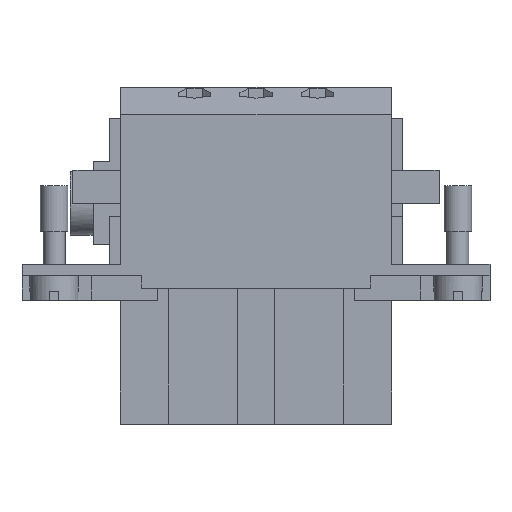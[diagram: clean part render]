
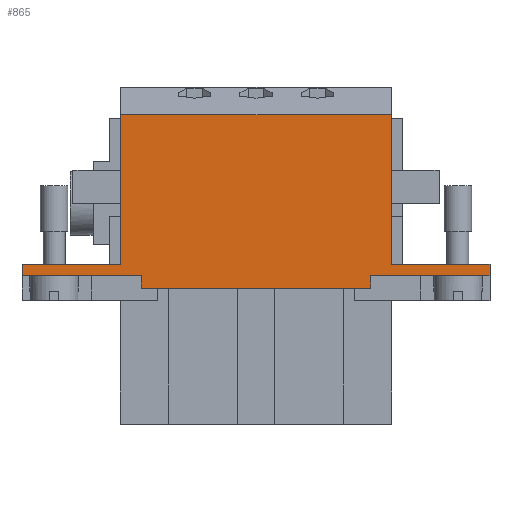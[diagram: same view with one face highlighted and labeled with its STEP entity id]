
A CAD part, top view. The second image highlights one B-rep face of the part: STEP entity #865.
In plain terms, the highlighted planar face has unit normal (0, 0, 1).
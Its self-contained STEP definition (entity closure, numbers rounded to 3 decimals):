
#162 = DIRECTION ( 'NONE',  ( -1., 0., 0. ) ) ;
#275 = FACE_OUTER_BOUND ( 'NONE', #6357, .T. ) ;
#409 = EDGE_CURVE ( 'NONE', #8624, #3747, #432, .T. ) ;
#432 = LINE ( 'NONE', #2597, #7323 ) ;
#462 = VERTEX_POINT ( 'NONE', #8186 ) ;
#865 = ADVANCED_FACE ( 'NONE', ( #275 ), #3614, .F. ) ;
#1020 = VERTEX_POINT ( 'NONE', #1173 ) ;
#1173 = CARTESIAN_POINT ( 'NONE',  ( 14.75, 20.2, 17. ) ) ;
#1204 = ORIENTED_EDGE ( 'NONE', *, *, #7117, .T. ) ;
#1302 = CARTESIAN_POINT ( 'NONE',  ( -14.75, 3.9, 17. ) ) ;
#1489 = CARTESIAN_POINT ( 'NONE',  ( 25.5, 2.7, 17. ) ) ;
#1500 = LINE ( 'NONE', #2618, #6022 ) ;
#1562 = LINE ( 'NONE', #10875, #7203 ) ;
#1787 = CARTESIAN_POINT ( 'NONE',  ( -16.4, -60.742, 17. ) ) ;
#1869 = EDGE_CURVE ( 'NONE', #10156, #4719, #8128, .T. ) ;
#1883 = CARTESIAN_POINT ( 'NONE',  ( -12.5, 1.3, 17. ) ) ;
#2114 = LINE ( 'NONE', #7710, #6637 ) ;
#2119 = CARTESIAN_POINT ( 'NONE',  ( -12.5, -4.885, 17. ) ) ;
#2121 = EDGE_CURVE ( 'NONE', #1020, #10606, #9405, .T. ) ;
#2210 = EDGE_CURVE ( 'NONE', #7944, #10156, #3340, .T. ) ;
#2222 = VECTOR ( 'NONE', #8026, 1000. ) ;
#2337 = VECTOR ( 'NONE', #7668, 1000. ) ;
#2421 = EDGE_CURVE ( 'NONE', #462, #8624, #1500, .T. ) ;
#2597 = CARTESIAN_POINT ( 'NONE',  ( -25.5, 2.7, 17. ) ) ;
#2618 = CARTESIAN_POINT ( 'NONE',  ( -16.4, 2.7, 17. ) ) ;
#2756 = DIRECTION ( 'NONE',  ( 1., 0., 0. ) ) ;
#2787 = CARTESIAN_POINT ( 'NONE',  ( 14.75, 3.9, 17. ) ) ;
#2888 = LINE ( 'NONE', #9360, #2337 ) ;
#2972 = DIRECTION ( 'NONE',  ( 0., 1., 0. ) ) ;
#3058 = CARTESIAN_POINT ( 'NONE',  ( -16.4, 3.9, 17. ) ) ;
#3118 = ORIENTED_EDGE ( 'NONE', *, *, #7149, .F. ) ;
#3340 = LINE ( 'NONE', #5572, #5886 ) ;
#3445 = AXIS2_PLACEMENT_3D ( 'NONE', #1787, #9930, #4552 ) ;
#3512 = DIRECTION ( 'NONE',  ( 0., 1., 0. ) ) ;
#3614 = PLANE ( 'NONE',  #3445 ) ;
#3738 = CARTESIAN_POINT ( 'NONE',  ( 25.5, 3.9, 17. ) ) ;
#3747 = VERTEX_POINT ( 'NONE', #7391 ) ;
#3863 = CARTESIAN_POINT ( 'NONE',  ( 14.75, -30.14, 17. ) ) ;
#3872 = ORIENTED_EDGE ( 'NONE', *, *, #2421, .F. ) ;
#4112 = DIRECTION ( 'NONE',  ( -1., 0., 0. ) ) ;
#4383 = ORIENTED_EDGE ( 'NONE', *, *, #2210, .T. ) ;
#4428 = EDGE_CURVE ( 'NONE', #9416, #10606, #1562, .T. ) ;
#4552 = DIRECTION ( 'NONE',  ( 1., 0., 0. ) ) ;
#4585 = DIRECTION ( 'NONE',  ( 1., 0., 0. ) ) ;
#4719 = VERTEX_POINT ( 'NONE', #10483 ) ;
#4749 = ORIENTED_EDGE ( 'NONE', *, *, #2121, .T. ) ;
#4855 = EDGE_CURVE ( 'NONE', #4719, #7285, #9600, .T. ) ;
#4919 = ORIENTED_EDGE ( 'NONE', *, *, #4855, .T. ) ;
#5009 = LINE ( 'NONE', #3863, #5565 ) ;
#5482 = ORIENTED_EDGE ( 'NONE', *, *, #11303, .T. ) ;
#5565 = VECTOR ( 'NONE', #2972, 1000. ) ;
#5572 = CARTESIAN_POINT ( 'NONE',  ( -16.4, 1.3, 17. ) ) ;
#5738 = LINE ( 'NONE', #3058, #9539 ) ;
#5826 = DIRECTION ( 'NONE',  ( 0., 1., 0. ) ) ;
#5886 = VECTOR ( 'NONE', #4585, 1000. ) ;
#6022 = VECTOR ( 'NONE', #6442, 1000. ) ;
#6205 = CARTESIAN_POINT ( 'NONE',  ( 16.4, 2.7, 17. ) ) ;
#6221 = CARTESIAN_POINT ( 'NONE',  ( 12.5, -4.885, 17. ) ) ;
#6357 = EDGE_LOOP ( 'NONE', ( #6662, #4749, #9662, #1204, #6824, #3872, #3118, #4383, #6947, #4919, #9877, #5482 ) ) ;
#6390 = VERTEX_POINT ( 'NONE', #2787 ) ;
#6442 = DIRECTION ( 'NONE',  ( -1., 0., 0. ) ) ;
#6567 = CARTESIAN_POINT ( 'NONE',  ( -16.4, 20.2, 17. ) ) ;
#6637 = VECTOR ( 'NONE', #4112, 1000. ) ;
#6662 = ORIENTED_EDGE ( 'NONE', *, *, #8462, .T. ) ;
#6824 = ORIENTED_EDGE ( 'NONE', *, *, #409, .F. ) ;
#6947 = ORIENTED_EDGE ( 'NONE', *, *, #1869, .T. ) ;
#7001 = VECTOR ( 'NONE', #5826, 1000. ) ;
#7117 = EDGE_CURVE ( 'NONE', #9416, #3747, #5738, .T. ) ;
#7149 = EDGE_CURVE ( 'NONE', #7944, #462, #8129, .T. ) ;
#7203 = VECTOR ( 'NONE', #10719, 1000. ) ;
#7285 = VERTEX_POINT ( 'NONE', #1489 ) ;
#7323 = VECTOR ( 'NONE', #3512, 1000. ) ;
#7391 = CARTESIAN_POINT ( 'NONE',  ( -25.5, 3.9, 17. ) ) ;
#7547 = VERTEX_POINT ( 'NONE', #3738 ) ;
#7668 = DIRECTION ( 'NONE',  ( 0., 1., 0. ) ) ;
#7710 = CARTESIAN_POINT ( 'NONE',  ( 16.4, 3.9, 17. ) ) ;
#7724 = CARTESIAN_POINT ( 'NONE',  ( -14.75, 20.2, 17. ) ) ;
#7944 = VERTEX_POINT ( 'NONE', #1883 ) ;
#8026 = DIRECTION ( 'NONE',  ( 0., 1., 0. ) ) ;
#8128 = LINE ( 'NONE', #6221, #2222 ) ;
#8129 = LINE ( 'NONE', #2119, #7001 ) ;
#8186 = CARTESIAN_POINT ( 'NONE',  ( -12.5, 2.7, 17. ) ) ;
#8462 = EDGE_CURVE ( 'NONE', #6390, #1020, #5009, .T. ) ;
#8624 = VERTEX_POINT ( 'NONE', #9566 ) ;
#8746 = VECTOR ( 'NONE', #2756, 1000. ) ;
#8767 = CARTESIAN_POINT ( 'NONE',  ( 12.5, 1.3, 17. ) ) ;
#9360 = CARTESIAN_POINT ( 'NONE',  ( 25.5, 2.7, 17. ) ) ;
#9405 = LINE ( 'NONE', #6567, #11693 ) ;
#9416 = VERTEX_POINT ( 'NONE', #1302 ) ;
#9539 = VECTOR ( 'NONE', #11196, 1000. ) ;
#9566 = CARTESIAN_POINT ( 'NONE',  ( -25.5, 2.7, 17. ) ) ;
#9600 = LINE ( 'NONE', #6205, #8746 ) ;
#9662 = ORIENTED_EDGE ( 'NONE', *, *, #4428, .F. ) ;
#9877 = ORIENTED_EDGE ( 'NONE', *, *, #10012, .T. ) ;
#9930 = DIRECTION ( 'NONE',  ( 0., 0., -1. ) ) ;
#10012 = EDGE_CURVE ( 'NONE', #7285, #7547, #2888, .T. ) ;
#10156 = VERTEX_POINT ( 'NONE', #8767 ) ;
#10483 = CARTESIAN_POINT ( 'NONE',  ( 12.5, 2.7, 17. ) ) ;
#10606 = VERTEX_POINT ( 'NONE', #7724 ) ;
#10719 = DIRECTION ( 'NONE',  ( 0., 1., 0. ) ) ;
#10875 = CARTESIAN_POINT ( 'NONE',  ( -14.75, -30.14, 17. ) ) ;
#11196 = DIRECTION ( 'NONE',  ( -1., 0., 0. ) ) ;
#11303 = EDGE_CURVE ( 'NONE', #7547, #6390, #2114, .T. ) ;
#11693 = VECTOR ( 'NONE', #162, 1000. ) ;
